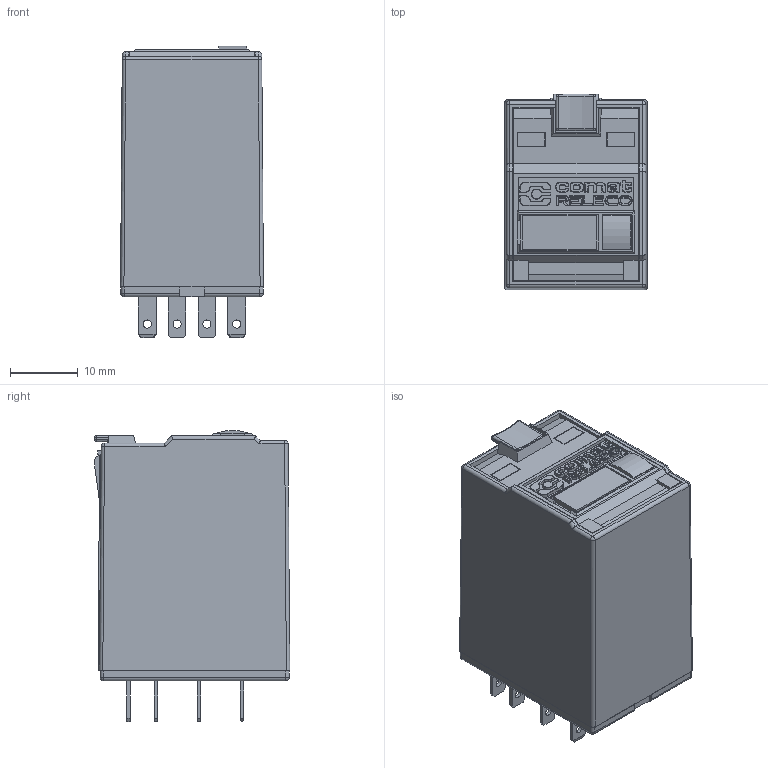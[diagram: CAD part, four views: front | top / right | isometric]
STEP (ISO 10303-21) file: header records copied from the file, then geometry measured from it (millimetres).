
FILE_DESCRIPTION (( 'STEP AP214' ), '1' );
FILE_NAME ('R9.STEP', '2024-03-26T09:35:39', ( '' ), ( '' ), 'SwSTEP 2.0', 'SolidWorks 2022', '' );
FILE_SCHEMA (( 'AUTOMOTIVE_DESIGN' ));
Length unit declared in the file: millimetre
Products named in the file (1): R9
Bounding box: 21.1 x 28.86 x 42.98 mm (x, y, z)
Volume: 20617.1 mm3; surface area: 5816.8 mm2
Topology: 1 solids, 2 shells, 817 faces, 2077 edges, 1298 vertices
Faces by surface type: plane 478, cylinder 183, bspline 136, sphere 14, torus 6
Entity records: 35096 total; most frequent: CARTESIAN_POINT 8768, ORIENTED_EDGE 4126, DIRECTION 3354, EDGE_CURVE 2063, VECTOR 1506, LINE 1506, VERTEX_POINT 1294, AXIS2_PLACEMENT_3D 924
